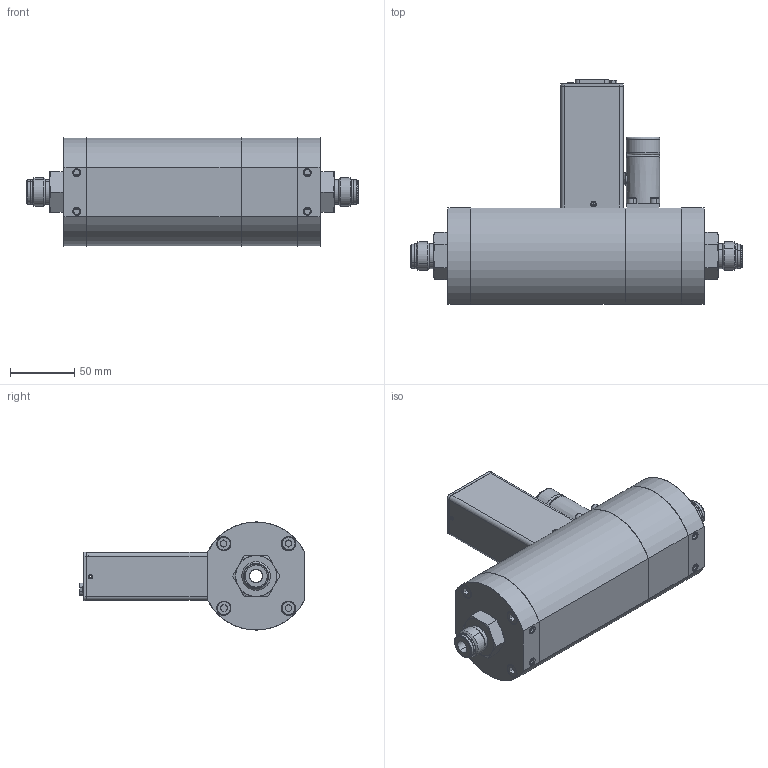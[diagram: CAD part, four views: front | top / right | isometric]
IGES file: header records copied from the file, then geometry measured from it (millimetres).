
Start section: SolidWorks IGES file using analytic representation for surfaces
Global section: file name: G:\Engineering\CAD MODELS FOR SALES\CAD MODEL STORAGE\SLA\SLA5853\IGES\SLA5853-S-2M-3-B-REVB.IGS; native system: SolidWorks 2020; preprocessor: SolidWorks 2020; author: CFehr; date: 230711.095739; units: inch
Bounding box: 257.73 x 174.37 x 84 mm (x, y, z)
Surface area: 192740.8 mm2 (no closed solid volume)
Topology: 0 solids, 0 shells, 1363 faces, 17394 edges, 17382 vertices
Faces by surface type: bspline 699, revolution 664
